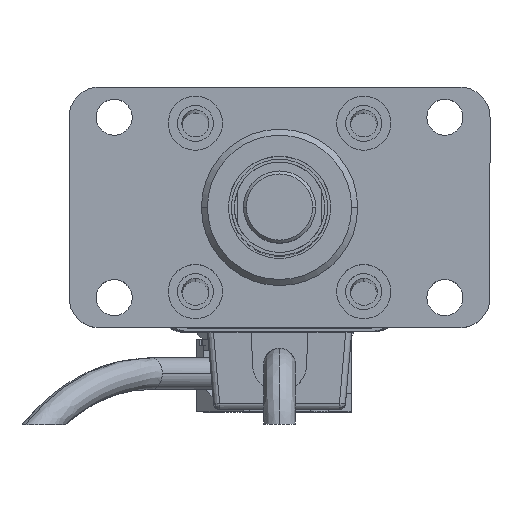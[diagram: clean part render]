
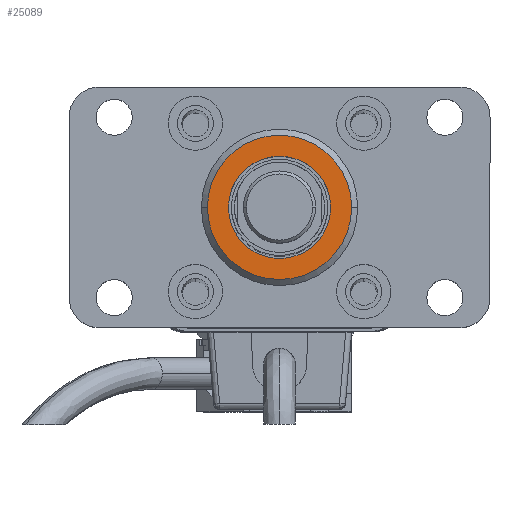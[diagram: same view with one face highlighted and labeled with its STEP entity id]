
A CAD part, top view. The second image highlights one B-rep face of the part: STEP entity #25089.
In plain terms, the highlighted planar face has unit normal (0, 0, 1) as drawn and (0, 0, -1) by its records, which use the part's own axes.
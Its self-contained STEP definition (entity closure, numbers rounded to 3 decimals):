
#412 = ORIENTED_EDGE ( 'NONE', *, *, #17942, .T. ) ;
#468 = FACE_BOUND ( 'NONE', #23737, .T. ) ;
#777 = DIRECTION ( 'NONE',  ( 0., 0., -1. ) ) ;
#1153 = FACE_OUTER_BOUND ( 'NONE', #13171, .T. ) ;
#2467 = CARTESIAN_POINT ( 'NONE',  ( 0., 0., -3. ) ) ;
#3078 = CARTESIAN_POINT ( 'NONE',  ( 0., 0., -3. ) ) ;
#3109 = DIRECTION ( 'NONE',  ( -1., 0., 0. ) ) ;
#4118 = CARTESIAN_POINT ( 'NONE',  ( 12., 0., -3. ) ) ;
#4167 = VERTEX_POINT ( 'NONE', #15901 ) ;
#4864 = EDGE_CURVE ( 'NONE', #4167, #23473, #13849, .T. ) ;
#6421 = AXIS2_PLACEMENT_3D ( 'NONE', #2467, #24239, #15695 ) ;
#6826 = ORIENTED_EDGE ( 'NONE', *, *, #4864, .F. ) ;
#9059 = ORIENTED_EDGE ( 'NONE', *, *, #15910, .T. ) ;
#9131 = CIRCLE ( 'NONE', #19416, 12. ) ;
#9649 = DIRECTION ( 'NONE',  ( -1., 0., 0. ) ) ;
#9680 = DIRECTION ( 'NONE',  ( -1., 0., 0. ) ) ;
#10149 = AXIS2_PLACEMENT_3D ( 'NONE', #16299, #777, #9649 ) ;
#11078 = AXIS2_PLACEMENT_3D ( 'NONE', #11857, #14077, #3109 ) ;
#11857 = CARTESIAN_POINT ( 'NONE',  ( 0., 0., -3. ) ) ;
#13052 = VERTEX_POINT ( 'NONE', #26708 ) ;
#13171 = EDGE_LOOP ( 'NONE', ( #412, #9059 ) ) ;
#13849 = CIRCLE ( 'NONE', #17320, 8.5 ) ;
#14077 = DIRECTION ( 'NONE',  ( 0., 0., -1. ) ) ;
#14808 = CIRCLE ( 'NONE', #10149, 8.5 ) ;
#15152 = EDGE_CURVE ( 'NONE', #23473, #4167, #14808, .T. ) ;
#15695 = DIRECTION ( 'NONE',  ( -1., 0., 0. ) ) ;
#15901 = CARTESIAN_POINT ( 'NONE',  ( 8.5, 0., -3. ) ) ;
#15910 = EDGE_CURVE ( 'NONE', #13052, #16939, #21276, .T. ) ;
#16299 = CARTESIAN_POINT ( 'NONE',  ( 0., 0., -3. ) ) ;
#16939 = VERTEX_POINT ( 'NONE', #4118 ) ;
#17320 = AXIS2_PLACEMENT_3D ( 'NONE', #3078, #18431, #9680 ) ;
#17801 = PLANE ( 'NONE',  #6421 ) ;
#17942 = EDGE_CURVE ( 'NONE', #16939, #13052, #9131, .T. ) ;
#18431 = DIRECTION ( 'NONE',  ( 0., 0., -1. ) ) ;
#19416 = AXIS2_PLACEMENT_3D ( 'NONE', #27492, #21160, #25483 ) ;
#21160 = DIRECTION ( 'NONE',  ( 0., 0., -1. ) ) ;
#21191 = ORIENTED_EDGE ( 'NONE', *, *, #15152, .F. ) ;
#21276 = CIRCLE ( 'NONE', #11078, 12. ) ;
#23473 = VERTEX_POINT ( 'NONE', #24356 ) ;
#23737 = EDGE_LOOP ( 'NONE', ( #6826, #21191 ) ) ;
#24239 = DIRECTION ( 'NONE',  ( 0., 0., -1. ) ) ;
#24356 = CARTESIAN_POINT ( 'NONE',  ( -8.5, 0., -3. ) ) ;
#25089 = ADVANCED_FACE ( 'NONE', ( #1153, #468 ), #17801, .T. ) ;
#25483 = DIRECTION ( 'NONE',  ( -1., 0., 0. ) ) ;
#26708 = CARTESIAN_POINT ( 'NONE',  ( -12., 0., -3. ) ) ;
#27492 = CARTESIAN_POINT ( 'NONE',  ( 0., 0., -3. ) ) ;
